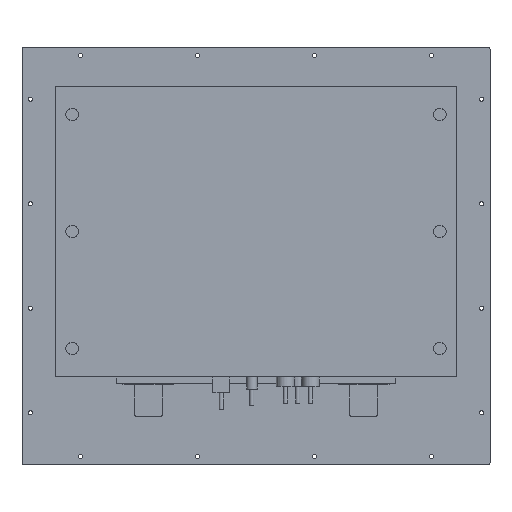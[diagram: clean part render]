
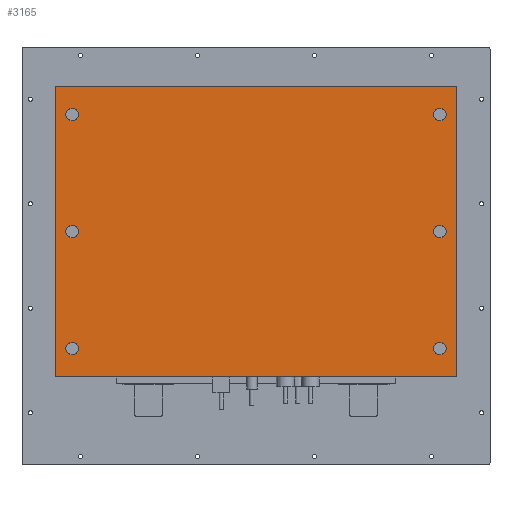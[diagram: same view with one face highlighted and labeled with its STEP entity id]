
A CAD part, front view. The second image highlights one B-rep face of the part: STEP entity #3165.
In plain terms, the highlighted planar face has unit normal (0, -1, 0).
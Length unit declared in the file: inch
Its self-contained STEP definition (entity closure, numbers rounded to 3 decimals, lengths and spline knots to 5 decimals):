
#1=DIRECTION('',(0.,0.,1.));
#2=VECTOR('',#1,17.393);
#3=CARTESIAN_POINT('',(-12.,0.,-8.6965));
#4=LINE('',#3,#2);
#5=DIRECTION('',(1.,0.,0.));
#6=VECTOR('',#5,24.);
#7=CARTESIAN_POINT('',(-12.,0.,8.6965));
#8=LINE('',#7,#6);
#9=DIRECTION('',(0.,0.,-1.));
#10=VECTOR('',#9,17.393);
#11=CARTESIAN_POINT('',(12.,0.,8.6965));
#12=LINE('',#11,#10);
#13=DIRECTION('',(-1.,0.,0.));
#14=VECTOR('',#13,24.);
#15=CARTESIAN_POINT('',(12.,0.,-8.6965));
#16=LINE('',#15,#14);
#17=CARTESIAN_POINT('',(11.,0.,-7.));
#18=DIRECTION('',(0.,-1.,0.));
#19=DIRECTION('',(-1.,0.,0.));
#20=AXIS2_PLACEMENT_3D('',#17,#18,#19);
#22=CARTESIAN_POINT('',(11.,0.,-7.));
#23=DIRECTION('',(0.,-1.,0.));
#24=DIRECTION('',(1.,0.,0.));
#25=AXIS2_PLACEMENT_3D('',#22,#23,#24);
#27=CARTESIAN_POINT('',(11.,0.,0.));
#28=DIRECTION('',(0.,-1.,0.));
#29=DIRECTION('',(-1.,0.,0.));
#30=AXIS2_PLACEMENT_3D('',#27,#28,#29);
#32=CARTESIAN_POINT('',(11.,0.,0.));
#33=DIRECTION('',(0.,-1.,0.));
#34=DIRECTION('',(1.,0.,0.));
#35=AXIS2_PLACEMENT_3D('',#32,#33,#34);
#37=CARTESIAN_POINT('',(11.,0.,7.));
#38=DIRECTION('',(0.,-1.,0.));
#39=DIRECTION('',(-1.,0.,0.));
#40=AXIS2_PLACEMENT_3D('',#37,#38,#39);
#42=CARTESIAN_POINT('',(11.,0.,7.));
#43=DIRECTION('',(0.,-1.,0.));
#44=DIRECTION('',(1.,0.,0.));
#45=AXIS2_PLACEMENT_3D('',#42,#43,#44);
#47=CARTESIAN_POINT('',(-11.,0.,-7.));
#48=DIRECTION('',(0.,-1.,0.));
#49=DIRECTION('',(-1.,0.,0.));
#50=AXIS2_PLACEMENT_3D('',#47,#48,#49);
#52=CARTESIAN_POINT('',(-11.,0.,-7.));
#53=DIRECTION('',(0.,-1.,0.));
#54=DIRECTION('',(1.,0.,0.));
#55=AXIS2_PLACEMENT_3D('',#52,#53,#54);
#57=CARTESIAN_POINT('',(-11.,0.,0.));
#58=DIRECTION('',(0.,-1.,0.));
#59=DIRECTION('',(-1.,0.,0.));
#60=AXIS2_PLACEMENT_3D('',#57,#58,#59);
#62=CARTESIAN_POINT('',(-11.,0.,0.));
#63=DIRECTION('',(0.,-1.,0.));
#64=DIRECTION('',(1.,0.,0.));
#65=AXIS2_PLACEMENT_3D('',#62,#63,#64);
#67=CARTESIAN_POINT('',(-11.,0.,7.));
#68=DIRECTION('',(0.,-1.,0.));
#69=DIRECTION('',(-1.,0.,0.));
#70=AXIS2_PLACEMENT_3D('',#67,#68,#69);
#72=CARTESIAN_POINT('',(-11.,0.,7.));
#73=DIRECTION('',(0.,-1.,0.));
#74=DIRECTION('',(1.,0.,0.));
#75=AXIS2_PLACEMENT_3D('',#72,#73,#74);
#2414=CARTESIAN_POINT('',(-12.,0.,-8.6965));
#2415=CARTESIAN_POINT('',(-12.,0.,8.6965));
#2416=VERTEX_POINT('',#2414);
#2417=VERTEX_POINT('',#2415);
#2418=CARTESIAN_POINT('',(12.,0.,8.6965));
#2419=VERTEX_POINT('',#2418);
#2420=CARTESIAN_POINT('',(12.,0.,-8.6965));
#2421=VERTEX_POINT('',#2420);
#2758=CARTESIAN_POINT('',(10.625,0.,-7.));
#2759=CARTESIAN_POINT('',(11.375,0.,-7.));
#2760=VERTEX_POINT('',#2758);
#2761=VERTEX_POINT('',#2759);
#2766=CARTESIAN_POINT('',(10.625,0.,0.));
#2767=CARTESIAN_POINT('',(11.375,0.,0.));
#2768=VERTEX_POINT('',#2766);
#2769=VERTEX_POINT('',#2767);
#2774=CARTESIAN_POINT('',(10.625,0.,7.));
#2775=CARTESIAN_POINT('',(11.375,0.,7.));
#2776=VERTEX_POINT('',#2774);
#2777=VERTEX_POINT('',#2775);
#2782=CARTESIAN_POINT('',(-11.375,0.,-7.));
#2783=CARTESIAN_POINT('',(-10.625,0.,-7.));
#2784=VERTEX_POINT('',#2782);
#2785=VERTEX_POINT('',#2783);
#2790=CARTESIAN_POINT('',(-11.375,0.,0.));
#2791=CARTESIAN_POINT('',(-10.625,0.,0.));
#2792=VERTEX_POINT('',#2790);
#2793=VERTEX_POINT('',#2791);
#2798=CARTESIAN_POINT('',(-11.375,0.,7.));
#2799=CARTESIAN_POINT('',(-10.625,0.,7.));
#2800=VERTEX_POINT('',#2798);
#2801=VERTEX_POINT('',#2799);
#3114=CARTESIAN_POINT('',(0.,0.,0.));
#3115=DIRECTION('',(0.,1.,0.));
#3116=DIRECTION('',(1.,0.,0.));
#3117=AXIS2_PLACEMENT_3D('',#3114,#3115,#3116);
#3118=PLANE('',#3117);
#3120=ORIENTED_EDGE('',*,*,#3119,.T.);
#3122=ORIENTED_EDGE('',*,*,#3121,.T.);
#3124=ORIENTED_EDGE('',*,*,#3123,.T.);
#3126=ORIENTED_EDGE('',*,*,#3125,.T.);
#3127=EDGE_LOOP('',(#3120,#3122,#3124,#3126));
#3128=FACE_OUTER_BOUND('',#3127,.F.);
#3130=ORIENTED_EDGE('',*,*,#3129,.T.);
#3132=ORIENTED_EDGE('',*,*,#3131,.T.);
#3133=EDGE_LOOP('',(#3130,#3132));
#3134=FACE_BOUND('',#3133,.F.);
#3136=ORIENTED_EDGE('',*,*,#3135,.T.);
#3138=ORIENTED_EDGE('',*,*,#3137,.T.);
#3139=EDGE_LOOP('',(#3136,#3138));
#3140=FACE_BOUND('',#3139,.F.);
#3142=ORIENTED_EDGE('',*,*,#3141,.T.);
#3144=ORIENTED_EDGE('',*,*,#3143,.T.);
#3145=EDGE_LOOP('',(#3142,#3144));
#3146=FACE_BOUND('',#3145,.F.);
#3148=ORIENTED_EDGE('',*,*,#3147,.T.);
#3150=ORIENTED_EDGE('',*,*,#3149,.T.);
#3151=EDGE_LOOP('',(#3148,#3150));
#3152=FACE_BOUND('',#3151,.F.);
#3154=ORIENTED_EDGE('',*,*,#3153,.T.);
#3156=ORIENTED_EDGE('',*,*,#3155,.T.);
#3157=EDGE_LOOP('',(#3154,#3156));
#3158=FACE_BOUND('',#3157,.F.);
#3160=ORIENTED_EDGE('',*,*,#3159,.T.);
#3162=ORIENTED_EDGE('',*,*,#3161,.T.);
#3163=EDGE_LOOP('',(#3160,#3162));
#3164=FACE_BOUND('',#3163,.F.);
#3165=ADVANCED_FACE('',(#3128,#3134,#3140,#3146,#3152,#3158,#3164),#3118,.F.);
#21=CIRCLE('',#20,0.375);
#26=CIRCLE('',#25,0.375);
#31=CIRCLE('',#30,0.375);
#36=CIRCLE('',#35,0.375);
#41=CIRCLE('',#40,0.375);
#46=CIRCLE('',#45,0.375);
#51=CIRCLE('',#50,0.375);
#56=CIRCLE('',#55,0.375);
#61=CIRCLE('',#60,0.375);
#66=CIRCLE('',#65,0.375);
#71=CIRCLE('',#70,0.375);
#76=CIRCLE('',#75,0.375);
#3119=EDGE_CURVE('',#2416,#2417,#4,.T.);
#3121=EDGE_CURVE('',#2417,#2419,#8,.T.);
#3123=EDGE_CURVE('',#2419,#2421,#12,.T.);
#3125=EDGE_CURVE('',#2421,#2416,#16,.T.);
#3129=EDGE_CURVE('',#2760,#2761,#21,.T.);
#3131=EDGE_CURVE('',#2761,#2760,#26,.T.);
#3135=EDGE_CURVE('',#2768,#2769,#31,.T.);
#3137=EDGE_CURVE('',#2769,#2768,#36,.T.);
#3141=EDGE_CURVE('',#2776,#2777,#41,.T.);
#3143=EDGE_CURVE('',#2777,#2776,#46,.T.);
#3147=EDGE_CURVE('',#2784,#2785,#51,.T.);
#3149=EDGE_CURVE('',#2785,#2784,#56,.T.);
#3153=EDGE_CURVE('',#2792,#2793,#61,.T.);
#3155=EDGE_CURVE('',#2793,#2792,#66,.T.);
#3159=EDGE_CURVE('',#2800,#2801,#71,.T.);
#3161=EDGE_CURVE('',#2801,#2800,#76,.T.);
